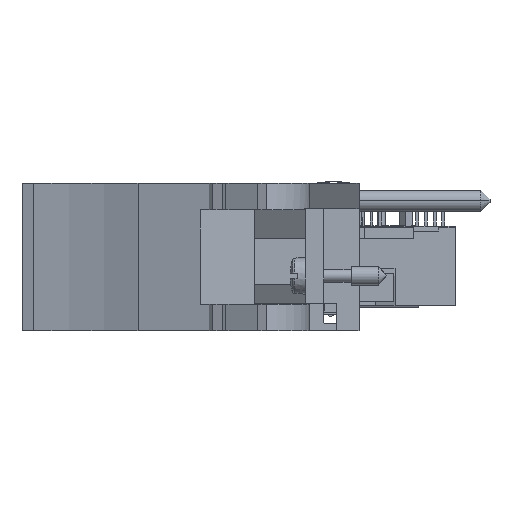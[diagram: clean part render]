
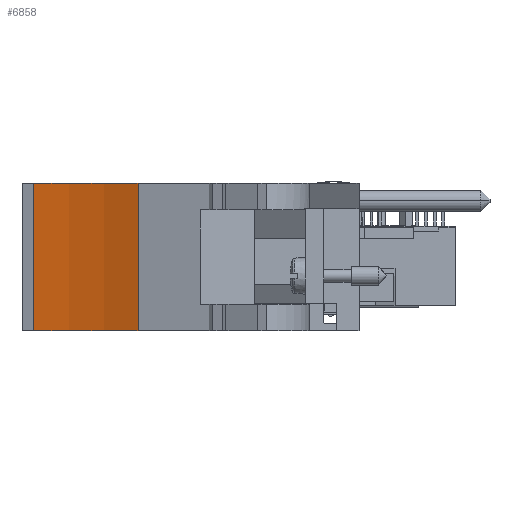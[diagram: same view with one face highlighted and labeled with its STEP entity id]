
A CAD part, front view. The second image highlights one B-rep face of the part: STEP entity #6858.
In plain terms, the highlighted cylindrical face has radius 51.46 mm (diameter 102.919 mm), a partial arc.
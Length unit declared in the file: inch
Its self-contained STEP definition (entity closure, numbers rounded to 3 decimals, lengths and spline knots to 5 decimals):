
#113=CARTESIAN_POINT('',(-1.86655,-6.16701,-0.155));
#114=DIRECTION('',(0.,0.,1.));
#115=DIRECTION('',(0.435,0.9,0.));
#116=AXIS2_PLACEMENT_3D('',#113,#114,#115);
#1137=CARTESIAN_POINT('',(-1.86655,-6.16701,0.633));
#1138=DIRECTION('',(0.,0.,1.));
#1139=DIRECTION('',(0.435,0.9,0.));
#1140=AXIS2_PLACEMENT_3D('',#1137,#1138,#1139);
#1334=DIRECTION('',(0.,0.,1.));
#1335=VECTOR('',#1334,0.788);
#1336=CARTESIAN_POINT('',(-0.98525,-4.34278,-0.155));
#1337=LINE('',#1336,#1335);
#1350=DIRECTION('',(0.,0.,1.));
#1351=VECTOR('',#1350,0.788);
#1352=CARTESIAN_POINT('',(-1.54322,-4.16701,-0.155));
#1353=LINE('',#1352,#1351);
#5235=CARTESIAN_POINT('',(-0.98525,-4.34278,-0.155));
#5236=CARTESIAN_POINT('',(-1.54322,-4.16701,-0.155));
#5237=VERTEX_POINT('',#5235);
#5238=VERTEX_POINT('',#5236);
#5239=CARTESIAN_POINT('',(-0.98525,-4.34278,0.633));
#5240=CARTESIAN_POINT('',(-1.54322,-4.16701,0.633));
#5241=VERTEX_POINT('',#5239);
#5242=VERTEX_POINT('',#5240);
#6846=CARTESIAN_POINT('',(-1.86655,-6.16701,0.633));
#6847=DIRECTION('',(0.,0.,1.));
#6848=DIRECTION('',(0.,1.,0.));
#6849=AXIS2_PLACEMENT_3D('',#6846,#6847,#6848);
#6850=CYLINDRICAL_SURFACE('',#6849,2.02597);
#6851=ORIENTED_EDGE('',*,*,#5597,.T.);
#6853=ORIENTED_EDGE('',*,*,#6852,.T.);
#6854=ORIENTED_EDGE('',*,*,#6615,.F.);
#6855=ORIENTED_EDGE('',*,*,#6832,.F.);
#6856=EDGE_LOOP('',(#6851,#6853,#6854,#6855));
#6857=FACE_OUTER_BOUND('',#6856,.F.);
#6858=ADVANCED_FACE('',(#6857),#6850,.F.);
#117=CIRCLE('',#116,2.02597);
#1141=CIRCLE('',#1140,2.02597);
#5597=EDGE_CURVE('',#5237,#5238,#117,.T.);
#6615=EDGE_CURVE('',#5241,#5242,#1141,.T.);
#6832=EDGE_CURVE('',#5237,#5241,#1337,.T.);
#6852=EDGE_CURVE('',#5238,#5242,#1353,.T.);
